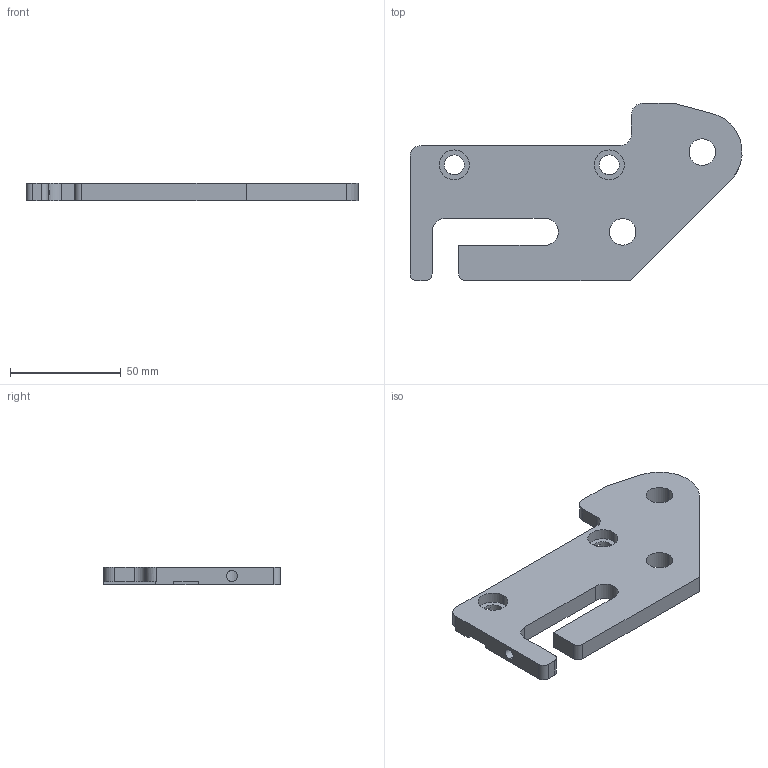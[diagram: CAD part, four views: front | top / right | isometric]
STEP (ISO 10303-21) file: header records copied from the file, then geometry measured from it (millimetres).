
FILE_DESCRIPTION (( 'STEP AP203' ), '1' );
FILE_NAME ('356.159.001 (dx).STEP', '2013-01-29T10:40:55', ( 'Alusic' ), ( 'Alusic' ), 'SwSTEP 2.0', 'SolidWorks 2011', '' );
FILE_SCHEMA (( 'CONFIG_CONTROL_DESIGN' ));
Length unit declared in the file: millimetre
Products named in the file (1): 356.159.001 (dx)
Bounding box: 149.93 x 80 x 8 mm (x, y, z)
Volume: 55467.9 mm3; surface area: 20847.5 mm2
Topology: 1 solids, 1 shells, 54 faces, 156 edges, 103 vertices
Faces by surface type: plane 30, cylinder 24
Entity records: 1916 total; most frequent: CARTESIAN_POINT 343, DIRECTION 321, ORIENTED_EDGE 312, EDGE_CURVE 156, AXIS2_PLACEMENT_3D 111, VERTEX_POINT 103, VECTOR 99, LINE 99
